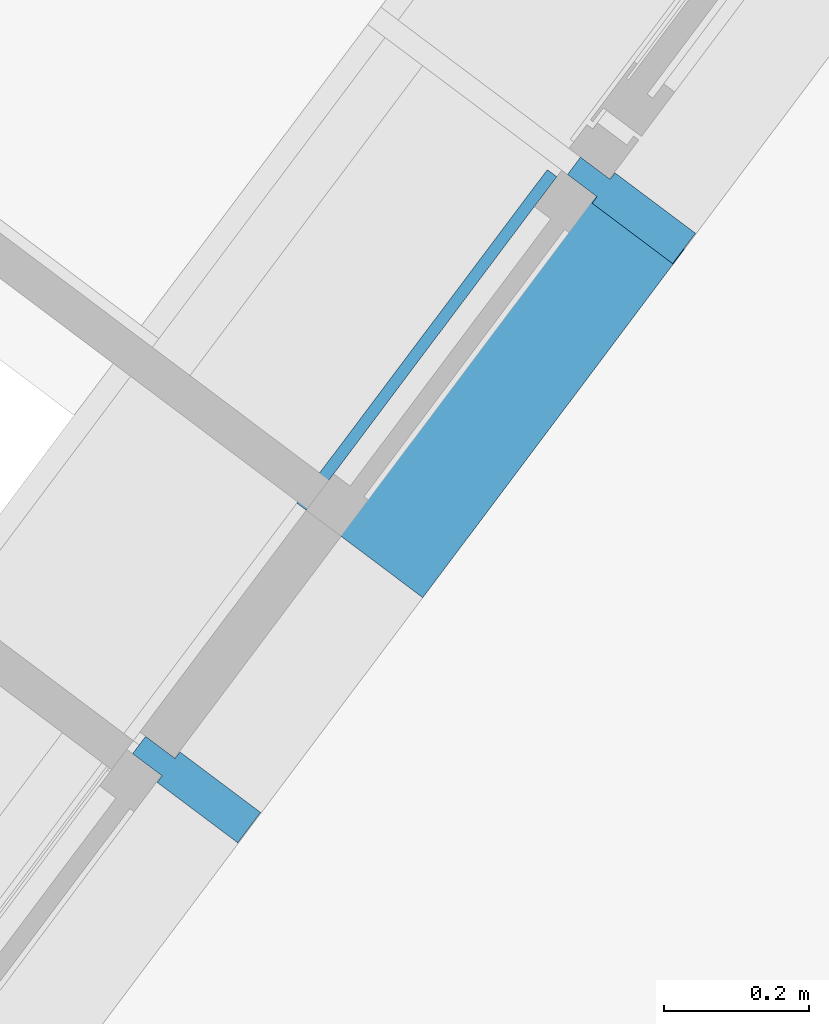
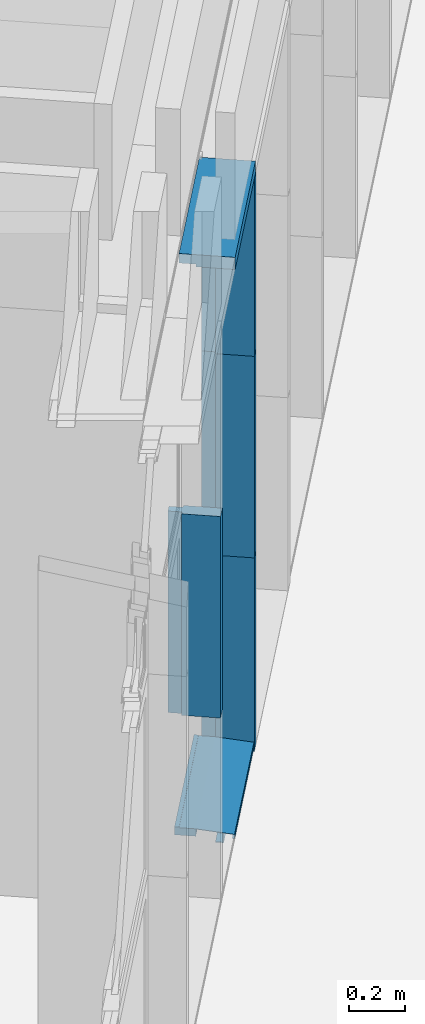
# One storey, part 83 of 243: 6 members, 1 element without a shape of its own.
"""IFC2X3 building model written with IfcOpenShell, lengths in metres."""

from ifc_helpers import new_model, entity, si_unit, converted_unit, derived_unit, direction, frame, frame_2d, origin, place, context, subcontext, project, spatial, polyline, circle_curve, parameter, trimmed, segment, composite_curve, outline, extrude, source, transform, mapped, material, type_object, type_shapes, element, aggregate, save


model = new_model("IFC2X3")

# Units and contexts
model_context = context("Model", 3, precision=1e-05, world=origin(), true_north=direction((6.123031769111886e-17, 1.0)))
body_context = subcontext(model_context, "Body", "Model", "MODEL_VIEW")
ifc_project = project(units=[si_unit("LENGTHUNIT", "METRE"), si_unit("AREAUNIT", "SQUARE_METRE"), si_unit("VOLUMEUNIT", "CUBIC_METRE"), converted_unit("PLANEANGLEUNIT", "DEGREE", entity("IfcRatioMeasure", 0.017453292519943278), si_unit("PLANEANGLEUNIT", "RADIAN"), dimensions=[0, 0, 0, 0, 0, 0, 0]), si_unit("MASSUNIT", "GRAM", prefix="KILO"), derived_unit("MASSDENSITYUNIT", [(si_unit("MASSUNIT", "GRAM", prefix="KILO"), 1), (si_unit("LENGTHUNIT", "METRE"), -3)]), derived_unit("IONCONCENTRATIONUNIT", [(si_unit("MASSUNIT", "GRAM", prefix="KILO"), 1), (si_unit("LENGTHUNIT", "METRE"), -3)]), derived_unit("MOMENTOFINERTIAUNIT", [(si_unit("LENGTHUNIT", "METRE"), 4)]), si_unit("TIMEUNIT", "SECOND"), si_unit("FREQUENCYUNIT", "HERTZ"), si_unit("THERMODYNAMICTEMPERATUREUNIT", "DEGREE_CELSIUS"), derived_unit("THERMALTRANSMITTANCEUNIT", [(si_unit("MASSUNIT", "GRAM", prefix="KILO"), 1), (si_unit("THERMODYNAMICTEMPERATUREUNIT", "KELVIN"), -1), (si_unit("TIMEUNIT", "SECOND"), -3)]), derived_unit("THERMALCONDUCTANCEUNIT", [(si_unit("MASSUNIT", "GRAM", prefix="KILO"), 1), (si_unit("THERMODYNAMICTEMPERATUREUNIT", "KELVIN"), -1), (si_unit("TIMEUNIT", "SECOND"), -3), (si_unit("LENGTHUNIT", "METRE"), 1)]), derived_unit("VOLUMETRICFLOWRATEUNIT", [(si_unit("LENGTHUNIT", "METRE"), 3), (si_unit("TIMEUNIT", "SECOND"), -1)]), derived_unit("MASSFLOWRATEUNIT", [(si_unit("MASSUNIT", "GRAM", prefix="KILO"), 1), (si_unit("TIMEUNIT", "SECOND"), -1)]), derived_unit("ROTATIONALFREQUENCYUNIT", [(si_unit("TIMEUNIT", "SECOND"), -1)]), si_unit("ELECTRICCURRENTUNIT", "AMPERE"), si_unit("ELECTRICVOLTAGEUNIT", "VOLT"), si_unit("POWERUNIT", "WATT"), si_unit("FORCEUNIT", "NEWTON", prefix="KILO"), si_unit("ILLUMINANCEUNIT", "LUX"), si_unit("LUMINOUSFLUXUNIT", "LUMEN"), si_unit("LUMINOUSINTENSITYUNIT", "CANDELA"), derived_unit("USERDEFINED", [(si_unit("MASSUNIT", "GRAM", prefix="KILO"), -1), (si_unit("LENGTHUNIT", "METRE"), -2), (si_unit("TIMEUNIT", "SECOND"), 3), (si_unit("LUMINOUSFLUXUNIT", "LUMEN"), 1)]), derived_unit("USERDEFINED", [(si_unit("MASSUNIT", "GRAM", prefix="KILO"), 1), (si_unit("TIMEUNIT", "SECOND"), -3), (si_unit("LENGTHUNIT", "METRE"), 3), (si_unit("ELECTRICCURRENTUNIT", "AMPERE"), -2)]), derived_unit("SOUNDPOWERUNIT", [(si_unit("MASSUNIT", "GRAM", prefix="KILO"), 1), (si_unit("TIMEUNIT", "SECOND"), -3), (si_unit("LENGTHUNIT", "METRE"), 2)]), derived_unit("SOUNDPRESSUREUNIT", [(si_unit("MASSUNIT", "GRAM", prefix="KILO"), 1), (si_unit("LENGTHUNIT", "METRE"), -1), (si_unit("TIMEUNIT", "SECOND"), -2)]), derived_unit("LINEARVELOCITYUNIT", [(si_unit("LENGTHUNIT", "METRE"), 1), (si_unit("TIMEUNIT", "SECOND"), -1)]), si_unit("PRESSUREUNIT", "PASCAL"), derived_unit("USERDEFINED", [(si_unit("MASSUNIT", "GRAM", prefix="KILO"), 1), (si_unit("LENGTHUNIT", "METRE"), -2), (si_unit("TIMEUNIT", "SECOND"), -2)]), derived_unit("LINEARFORCEUNIT", [(si_unit("MASSUNIT", "GRAM", prefix="KILO"), 1), (si_unit("TIMEUNIT", "SECOND"), -2)]), derived_unit("PLANARFORCEUNIT", [(si_unit("MASSUNIT", "GRAM", prefix="KILO"), 1), (si_unit("LENGTHUNIT", "METRE"), -1), (si_unit("TIMEUNIT", "SECOND"), -2)]), derived_unit("SPECIFICHEATCAPACITYUNIT", [(si_unit("THERMODYNAMICTEMPERATUREUNIT", "KELVIN"), -1), (si_unit("LENGTHUNIT", "METRE"), 2), (si_unit("TIMEUNIT", "SECOND"), -2)]), derived_unit("HEATINGVALUEUNIT", [(si_unit("LENGTHUNIT", "METRE"), 2), (si_unit("TIMEUNIT", "SECOND"), -2)]), derived_unit("VAPORPERMEABILITYUNIT", [(si_unit("LENGTHUNIT", "METRE"), -1), (si_unit("TIMEUNIT", "SECOND"), 1)]), derived_unit("DYNAMICVISCOSITYUNIT", [(si_unit("MASSUNIT", "GRAM", prefix="KILO"), 1), (si_unit("TIMEUNIT", "SECOND"), -1), (si_unit("LENGTHUNIT", "METRE"), -1)]), derived_unit("THERMALEXPANSIONCOEFFICIENTUNIT", [(si_unit("THERMODYNAMICTEMPERATUREUNIT", "KELVIN"), -1)]), derived_unit("MODULUSOFELASTICITYUNIT", [(si_unit("MASSUNIT", "GRAM", prefix="KILO"), 1), (si_unit("LENGTHUNIT", "METRE"), -1), (si_unit("TIMEUNIT", "SECOND"), -2)]), derived_unit("ISOTHERMALMOISTURECAPACITYUNIT", [(si_unit("LENGTHUNIT", "METRE"), 3), (si_unit("MASSUNIT", "GRAM", prefix="KILO"), -1)]), derived_unit("MOISTUREDIFFUSIVITYUNIT", [(si_unit("TIMEUNIT", "SECOND"), -1), (si_unit("LENGTHUNIT", "METRE"), 2)])], contexts=[model_context])

# Site, building, storey
site_placement = place(None, frame((0.0, 0.0, 235.0), z_axis=(0.0, 0.0, 1.0), x_axis=(-0.7996477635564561, 0.6004693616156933, 0.0)))
site = spatial("IfcSite", under=ifc_project, at=site_placement, Name="Default", CompositionType="ELEMENT")
building_placement = place(site_placement, origin())
building = spatial("IfcBuilding", under=site, at=building_placement, CompositionType="ELEMENT")
storey_placement = place(building_placement, origin())
storey = spatial("IfcBuildingStorey", under=building, at=storey_placement, Name="P0- Escola", CompositionType="ELEMENT", Elevation=0.0)

# Curtain wall, members
curtain_wall_type = type_object("IfcCurtainWallType", Name="Muro cortina:MC- EXT- MC2", PredefinedType="NOTDEFINED")
curtain_wall_placement = place(storey_placement, origin())
curtain_wall = element("IfcCurtainWall", 1, at=curtain_wall_placement, inside=storey, type_object=curtain_wall_type, Name="Muro cortina:MC- EXT- MC2", ObjectType="Muro cortina:MC- EXT- MC2")
ifc_material = material(Name="_Alumini- T1- Perfil")
member_type_1 = type_object("IfcMemberType", Name="Montante rectangular:MC- Alu- 140x52,5 cm- Fa patis- Centre", PredefinedType="MULLION", material=ifc_material)
shared_shape_1 = source(origin(), body_context, "Body", "SweptSolid", [
    extrude(outline(polyline([(-0.11699999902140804, -0.026250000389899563), (0.021999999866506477, -0.026250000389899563), (0.021999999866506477, -0.01500000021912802), (0.07299999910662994, -0.01500000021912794), (0.07299999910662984, 0.015000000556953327), (0.02200000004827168, 0.015000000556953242), (0.02200000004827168, 0.026250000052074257), (-0.11699999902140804, 0.026250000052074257), (-0.11699999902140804, -0.026250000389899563)])), frame((0.0, 0.022999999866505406, -0.8400000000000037), z_axis=(0.0, 0.0, 1.0), x_axis=(0.0, -1.0, 0.0)), (0.0, 0.0, 1.0), 0.8400000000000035),
])
type_shapes(member_type_1, [shared_shape_1])
member_1_placement = place(curtain_wall_placement, frame((5.885147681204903, -34.99019175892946, -0.02), z_axis=(0.0, 0.0, -1.0), x_axis=(0.0, -1.0, 0.0)))
member_1 = element("IfcMember", 2, at=member_1_placement, type_object=member_type_1, material=ifc_material, Name="Montante rectangular:MC- Alu- 140x52,5 cm- Fa patis- Centre", ObjectType="Montante rectangular:MC- Alu- 140x52,5 cm- Fa patis- Centre", context=body_context, shape_type="MappedRepresentation", body=[
    mapped(shared_shape_1, transform((0.0, 0.0, 0.0), scale=1.0)),
])
member_type_2 = type_object("IfcMemberType", Name="Montante rectangular:MC- Alu- 140x52,5 cm- Fa patis- Superior", PredefinedType="MULLION", material=ifc_material)
shared_shape_2 = source(origin(), body_context, "Body", "SweptSolid", [
    extrude(outline(polyline([(-0.11366666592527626, -0.021249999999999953), (0.026333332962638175, -0.021249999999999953), (0.026333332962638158, -0.010000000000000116), (0.0873333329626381, -0.010000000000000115), (0.0873333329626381, 0.03125000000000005), (-0.11366666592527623, 0.031250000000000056), (-0.11366666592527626, -0.021249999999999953)])), frame((-0.031250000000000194, 0.0273333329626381, -0.6021495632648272), z_axis=(0.0, 0.0, 1.0), x_axis=(0.0, -1.0, 0.0)), (0.0, 0.0, 1.0), 0.6021495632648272),
])
type_shapes(member_type_2, [shared_shape_2])
member_2_placement = place(curtain_wall_placement, frame((5.885147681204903, -34.99019175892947, 2.525), z_axis=(0.0, -1.0, 0.0), x_axis=(0.0, 0.0, 1.0)))
member_2 = element("IfcMember", 3, at=member_2_placement, type_object=member_type_2, material=ifc_material, Name="Montante rectangular:MC- Alu- 140x52,5 cm- Fa patis- Superior", ObjectType="Montante rectangular:MC- Alu- 140x52,5 cm- Fa patis- Superior", context=body_context, shape_type="MappedRepresentation", body=[
    mapped(shared_shape_2, transform((0.0, 0.0, 0.0), scale=1.0)),
])
member_type_3 = type_object("IfcMemberType", Name="Montante rectangular:MC- Alu- 140x52,5 cm- Fa patis- inferior", PredefinedType="MULLION", material=ifc_material)
shared_shape_3 = source(origin(), body_context, "Body", "SweptSolid", [
    extrude(outline(composite_curve([segment(polyline([(0.12786724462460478, -0.025867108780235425), (0.14416724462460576, -0.025867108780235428)]), True, "CONTINUOUS"), segment(polyline([(0.14416724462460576, -0.025867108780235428), (0.14416724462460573, 0.009132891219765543)]), True, "CONTINUOUS"), segment(polyline([(0.14416724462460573, 0.009132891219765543), (0.06786724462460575, 0.00913289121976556)]), True, "CONTINUOUS"), segment(polyline([(0.06786724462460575, 0.00913289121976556), (0.06786724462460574, -0.021159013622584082)]), True, "CONTINUOUS"), segment(polyline([(0.06786724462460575, -0.021159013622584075), (-0.030132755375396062, -0.012332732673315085)]), True, "CONTINUOUS"), segment(polyline([(-0.030132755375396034, -0.012332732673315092), (-0.030132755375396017, 0.02713289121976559)]), True, "CONTINUOUS"), segment(polyline([(-0.030132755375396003, 0.027132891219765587), (-0.0021327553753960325, 0.027132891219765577)]), True, "CONTINUOUS"), segment(polyline([(-0.0021327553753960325, 0.02713289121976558), (-0.002132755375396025, 0.02913289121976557)]), True, "CONTINUOUS"), segment(polyline([(-0.002132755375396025, 0.02913289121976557), (-0.03213275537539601, 0.029132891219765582)]), True, "CONTINUOUS"), segment(polyline([(-0.03213275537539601, 0.029132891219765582), (-0.03213275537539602, -0.012152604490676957)]), True, "CONTINUOUS"), segment(polyline([(-0.03213275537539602, -0.012152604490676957), (-0.0701327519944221, -0.008730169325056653)]), True, "CONTINUOUS"), segment(polyline([(-0.0701327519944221, -0.008730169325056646), (-0.0701327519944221, 0.005766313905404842)]), True, "CONTINUOUS"), segment(trimmed(circle_curve(frame_2d((-0.0696327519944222, 0.0057663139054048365), x_axis=(-1.0, 0.0)), 0.0004999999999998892), [parameter(269.99999999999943)], [parameter(0.0)], True, "PARAMETER"), False, "CONTINUOUS"), segment(polyline([(-0.0696327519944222, 0.0062663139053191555), (-0.06213275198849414, 0.006266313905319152)]), True, "CONTINUOUS"), segment(polyline([(-0.06213275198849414, 0.006266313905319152), (-0.062132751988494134, 0.008266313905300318)]), True, "CONTINUOUS"), segment(polyline([(-0.062132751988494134, 0.008266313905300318), (-0.07013275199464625, 0.00826631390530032)]), True, "CONTINUOUS"), segment(trimmed(circle_curve(frame_2d((-0.07013275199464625, 0.006266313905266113), x_axis=(0.0, 1.0)), 0.002000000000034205), [parameter(0.0)], [parameter(90.00000002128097)], True, "PARAMETER"), True, "CONTINUOUS"), segment(polyline([(-0.07213275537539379, 0.00626631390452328), (-0.07213275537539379, -0.008730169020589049)]), True, "CONTINUOUS"), segment(trimmed(circle_curve(frame_2d((-0.07013275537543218, -0.008730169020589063), x_axis=(-1.0, 0.0)), 0.001999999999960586), [parameter(0.0)], [parameter(84.8535928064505)], True, "PARAMETER"), True, "CONTINUOUS"), segment(polyline([(-0.07031215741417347, -0.010722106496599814), (0.06786724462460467, -0.023167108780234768)]), True, "CONTINUOUS"), segment(polyline([(0.06786724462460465, -0.02316710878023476), (0.12786724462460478, -0.02316710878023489)]), True, "CONTINUOUS"), segment(polyline([(0.12786724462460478, -0.02316710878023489), (0.12786724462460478, -0.025867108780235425)]), True, "CONTINUOUS")], self_intersect=False)), frame((-0.029132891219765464, 0.06786724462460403, -0.5758995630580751), z_axis=(0.0, 0.0, 1.0), x_axis=(0.0, -1.0, 0.0)), (0.0, 0.0, 1.0), 0.5758995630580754),
])
type_shapes(member_type_3, [shared_shape_3])
member_3_placement = place(curtain_wall_placement, frame((5.8851476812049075, -34.38804219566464, -0.02), z_axis=(0.0, 1.0, 0.0), x_axis=(0.0, 0.0, -1.0)))
member_3 = element("IfcMember", 4, at=member_3_placement, type_object=member_type_3, material=ifc_material, Name="Montante rectangular:MC- Alu- 140x52,5 cm- Fa patis- inferior", ObjectType="Montante rectangular:MC- Alu- 140x52,5 cm- Fa patis- inferior", context=body_context, shape_type="MappedRepresentation", body=[
    mapped(shared_shape_3, transform((0.0, 0.0, 0.0), scale=1.0)),
])
member_type_4 = type_object("IfcMemberType", Name="Montante rectangular:MC- Alu- 140x52,5 cm- Fa patis- Centre", PredefinedType="MULLION", material=ifc_material)
shared_shape_4 = source(origin(), body_context, "Body", "SweptSolid", [
    extrude(outline(polyline([(-0.11699999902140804, -0.026250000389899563), (0.021999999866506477, -0.026250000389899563), (0.021999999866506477, -0.01500000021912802), (0.07299999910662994, -0.01500000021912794), (0.07299999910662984, 0.015000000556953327), (0.02200000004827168, 0.015000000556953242), (0.02200000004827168, 0.026250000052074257), (-0.11699999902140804, 0.026250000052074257), (-0.11699999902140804, -0.026250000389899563)])), frame((0.0, 0.022999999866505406, -0.7774999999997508), z_axis=(0.0, 0.0, 1.0), x_axis=(0.0, -1.0, 0.0)), (0.0, 0.0, 1.0), 0.777499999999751),
])
type_shapes(member_type_4, [shared_shape_4])
member_4_placement = place(curtain_wall_placement, frame((5.885147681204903, -34.99019175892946, 1.6950000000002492), z_axis=(0.0, 0.0, -1.0), x_axis=(0.0, -1.0, 0.0)))
member_4 = element("IfcMember", 5, at=member_4_placement, type_object=member_type_4, material=ifc_material, Name="Montante rectangular:MC- Alu- 140x52,5 cm- Fa patis- Centre", ObjectType="Montante rectangular:MC- Alu- 140x52,5 cm- Fa patis- Centre", context=body_context, shape_type="MappedRepresentation", body=[
    mapped(shared_shape_4, transform((0.0, 0.0, 0.0), scale=1.0)),
])
member_type_5 = type_object("IfcMemberType", Name="Montante rectangular:MC- Alu- 140x52,5 cm- Fa patis- Centre", PredefinedType="MULLION", material=ifc_material)
shared_shape_5 = source(origin(), body_context, "Body", "SweptSolid", [
    extrude(outline(polyline([(-0.11699999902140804, -0.026250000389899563), (0.021999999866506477, -0.026250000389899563), (0.021999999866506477, -0.01500000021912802), (0.07299999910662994, -0.01500000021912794), (0.07299999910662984, 0.015000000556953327), (0.02200000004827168, 0.015000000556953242), (0.02200000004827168, 0.026250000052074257), (-0.11699999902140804, 0.026250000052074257), (-0.11699999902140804, -0.026250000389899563)])), frame((0.0, 0.022999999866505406, -0.8750000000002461), z_axis=(0.0, 0.0, 1.0), x_axis=(0.0, -1.0, 0.0)), (0.0, 0.0, 1.0), 0.8750000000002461),
])
type_shapes(member_type_5, [shared_shape_5])
member_5_placement = place(curtain_wall_placement, frame((5.88514768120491, -33.99019175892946, 0.8199999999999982), z_axis=(0.0, 0.0, -1.0), x_axis=(0.0, -1.0, 0.0)))
member_5 = element("IfcMember", 6, at=member_5_placement, type_object=member_type_5, material=ifc_material, Name="Montante rectangular:MC- Alu- 140x52,5 cm- Fa patis- Centre", ObjectType="Montante rectangular:MC- Alu- 140x52,5 cm- Fa patis- Centre", context=body_context, shape_type="MappedRepresentation", body=[
    mapped(shared_shape_5, transform((0.0, 0.0, 0.0), scale=1.0)),
])
member_6_placement = place(curtain_wall_placement, frame((5.885147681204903, -34.99019175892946, 0.8199999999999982), z_axis=(0.0, 0.0, -1.0), x_axis=(0.0, -1.0, 0.0)))
member_6 = element("IfcMember", 7, at=member_6_placement, type_object=member_type_5, material=ifc_material, Name="Montante rectangular:MC- Alu- 140x52,5 cm- Fa patis- Centre", ObjectType="Montante rectangular:MC- Alu- 140x52,5 cm- Fa patis- Centre", context=body_context, shape_type="MappedRepresentation", body=[
    mapped(shared_shape_5, transform((0.0, 0.0, 0.0), scale=1.0)),
])
aggregate(curtain_wall, [member_2, member_1, member_3, member_4, member_5, member_6])

save(model, "model.ifc")
